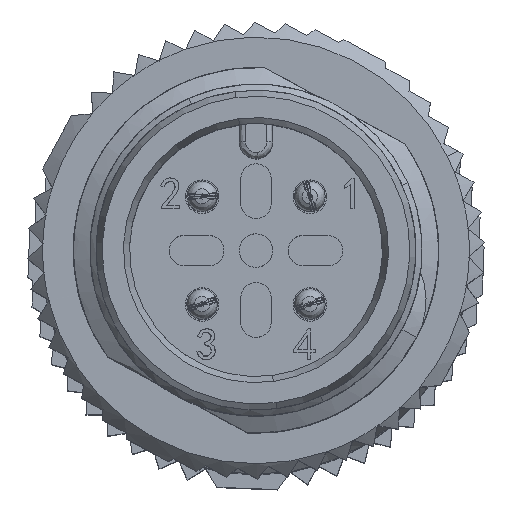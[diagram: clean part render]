
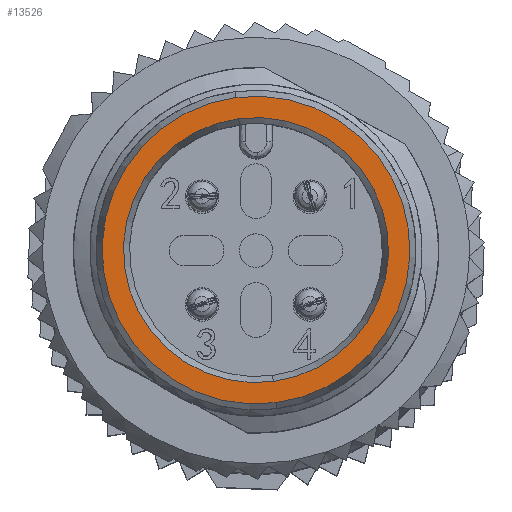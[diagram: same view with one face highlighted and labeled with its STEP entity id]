
A CAD part, top view. The second image highlights one B-rep face of the part: STEP entity #13526.
In plain terms, the highlighted planar face has unit normal (0, 0, 1).
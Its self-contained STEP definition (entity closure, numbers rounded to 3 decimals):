
#399 = EDGE_CURVE ( 'NONE', #36672, #39398, #44494, .T. ) ;
#725 = DIRECTION ( 'NONE',  ( 0., 0., -1. ) ) ;
#1830 = EDGE_LOOP ( 'NONE', ( #54939, #22137 ) ) ;
#5796 = DIRECTION ( 'NONE',  ( 0., 0., -1. ) ) ;
#6826 = ORIENTED_EDGE ( 'NONE', *, *, #7084, .F. ) ;
#7084 = EDGE_CURVE ( 'NONE', #8913, #33078, #51895, .T. ) ;
#8913 = VERTEX_POINT ( 'NONE', #21993 ) ;
#10870 = DIRECTION ( 'NONE',  ( -0.13, 0.991, 0. ) ) ;
#11110 = AXIS2_PLACEMENT_3D ( 'NONE', #20420, #50640, #16479 ) ;
#12049 = CARTESIAN_POINT ( 'NONE',  ( 0.568, -4.313, 153.4 ) ) ;
#13526 = ADVANCED_FACE ( 'NONE', ( #16157, #40699 ), #28269, .T. ) ;
#16157 = FACE_OUTER_BOUND ( 'NONE', #32330, .T. ) ;
#16479 = DIRECTION ( 'NONE',  ( 0.13, -0.991, 0. ) ) ;
#20420 = CARTESIAN_POINT ( 'NONE',  ( 0., 0., 153.4 ) ) ;
#21637 = CARTESIAN_POINT ( 'NONE',  ( 0., 0., 153.4 ) ) ;
#21993 = CARTESIAN_POINT ( 'NONE',  ( 0.659, -5.007, 153.4 ) ) ;
#22137 = ORIENTED_EDGE ( 'NONE', *, *, #399, .T. ) ;
#27524 = AXIS2_PLACEMENT_3D ( 'NONE', #21637, #725, #47893 ) ;
#27673 = AXIS2_PLACEMENT_3D ( 'NONE', #33351, #36726, #49743 ) ;
#28269 = PLANE ( 'NONE',  #27673 ) ;
#32330 = EDGE_LOOP ( 'NONE', ( #55736, #6826 ) ) ;
#33078 = VERTEX_POINT ( 'NONE', #53838 ) ;
#33351 = CARTESIAN_POINT ( 'NONE',  ( -3.324, -3.323, 153.4 ) ) ;
#34012 = CIRCLE ( 'NONE', #44863, 5.05 ) ;
#35673 = DIRECTION ( 'NONE',  ( 0., 0., -1. ) ) ;
#35748 = AXIS2_PLACEMENT_3D ( 'NONE', #39923, #35673, #53193 ) ;
#36672 = VERTEX_POINT ( 'NONE', #39219 ) ;
#36726 = DIRECTION ( 'NONE',  ( 0., 0., 1. ) ) ;
#37837 = EDGE_CURVE ( 'NONE', #39398, #36672, #42068, .T. ) ;
#39219 = CARTESIAN_POINT ( 'NONE',  ( -0.568, 4.313, 153.4 ) ) ;
#39398 = VERTEX_POINT ( 'NONE', #12049 ) ;
#39923 = CARTESIAN_POINT ( 'NONE',  ( 0., 0., 153.4 ) ) ;
#40699 = FACE_BOUND ( 'NONE', #1830, .T. ) ;
#40794 = CARTESIAN_POINT ( 'NONE',  ( 0., 0., 153.4 ) ) ;
#42068 = CIRCLE ( 'NONE', #35748, 4.35 ) ;
#43604 = EDGE_CURVE ( 'NONE', #33078, #8913, #34012, .T. ) ;
#44494 = CIRCLE ( 'NONE', #11110, 4.35 ) ;
#44863 = AXIS2_PLACEMENT_3D ( 'NONE', #40794, #5796, #10870 ) ;
#47893 = DIRECTION ( 'NONE',  ( -0.13, 0.991, 0. ) ) ;
#49743 = DIRECTION ( 'NONE',  ( 0.948, 0.318, 0. ) ) ;
#50640 = DIRECTION ( 'NONE',  ( 0., 0., -1. ) ) ;
#51895 = CIRCLE ( 'NONE', #27524, 5.05 ) ;
#53193 = DIRECTION ( 'NONE',  ( 0.13, -0.991, 0. ) ) ;
#53838 = CARTESIAN_POINT ( 'NONE',  ( -0.659, 5.007, 153.4 ) ) ;
#54939 = ORIENTED_EDGE ( 'NONE', *, *, #37837, .T. ) ;
#55736 = ORIENTED_EDGE ( 'NONE', *, *, #43604, .F. ) ;
